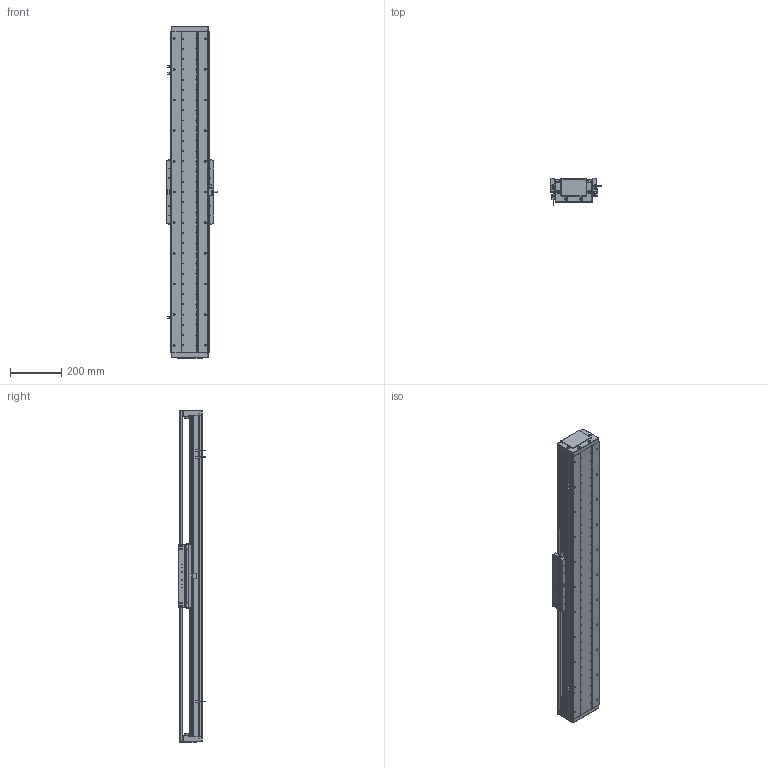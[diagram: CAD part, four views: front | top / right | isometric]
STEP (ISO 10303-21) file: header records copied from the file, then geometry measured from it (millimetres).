
FILE_DESCRIPTION (( 'STEP AP203' ), '1' );
FILE_NAME ('DA-C145-C3-T960-C010-0.2 眻盄萇儂.STEP', '2025-08-14T01:20:02', ( '' ), ( '' ), 'SwSTEP 2.0', 'SolidWorks 2019', '' );
FILE_SCHEMA (( 'CONFIG_CONTROL_DESIGN' ));
Length unit declared in the file: millimetre
Products named in the file (29): 复件 DA95-HK-GT-00 滑块钢轨^CU145-W-00 一体化滑动台板; 复件 DA145-C3-YB-A-00 压板A^CU145-W 滚珠滑台; 葩璃 鞠褒情蹟譫 M3^DA-C145-C3-T-C010-0.2; 葩璃 DA145-C3-DP-B-00 菜えB^CU145-W 幗紩賑怢; CU145-W 幗紩賑怢; TAY01-M8; 复件 DA145-C3-YB-B-00 压板B^CU145-W 滚珠滑台; 复件 纯铜油杯 6x6mm^CU145-W 滚珠滑台; 葩璃 CKMA01-W060-TRL^DA-C145-C3-T-C010-0.2; 复件 DA95-MFP-01 密封片^CU145-W 滚珠滑台; 葩璃 DA145-T-003-00 裔啣^DA-C145-C3-T-C010-0.2; 葩璃 DA145-C3-DP-A-00 菜えA^CU145-W 幗紩賑怢; 葩璃 CKM03-W060-C1C2-TP-0.2^DA-C145-C3-T-C010-0.2; IU-CU145-L-00 菁釱(L1260); 葩璃 DMA-010-0.2 黍杅芛^DA-C145-C3-T-C010-0.2; 葩璃 PM-T45^DA-C145-C3-T-C010-0.2; 复件 DA95-DB-00  挡板^CU145-W 滚珠滑台; 复件 DA145-GYP-00 光电感应片^DA-C145-C3-T-C010-0.2; 葩璃 DA95-HXJ-00 遣喳砎蝶^DA-C145-C3-T-C010-0.2; DA-C145-C3-T960-C010-0.2 眻盄萇儂; 66245-CU145-HT-W-00 賑雄怢啣(3D芞祧)(00); CU145-W-00 珨极趙賑雄怢啣; IU-CU145-L 菁釱絳寢; 复件 内六角平端紧定螺钉 GB.T77-2000 M5×10^CU145-W 滚珠滑台; 葩璃 DA95-GT-T-00^IU-CU145-L 菁釱絳寢; 复件 DA145-C3-DK-00 挡块^CU145-W 滚珠滑台; 复件 半圆头内六角螺钉 M3×6^CU145-W 滚珠滑台; 葩璃 DA145-DG-H-N-00 傷裔^DA-C145-C3-T-C010-0.2; 葩璃 XD-U-02L 棠掑喜^DA-C145-C3-T-C010-0.2
Assembly tree (98 placements, depth 4):
  DA-C145-C3-T960-C010-0.2 眻盄萇儂
    IU-CU145-L 菁釱絳寢
      IU-CU145-L-00 菁釱(L1260)
      葩璃 DA95-GT-T-00^IU-CU145-L 菁釱絳寢  x4
    CU145-W 幗紩賑怢
      CU145-W-00 珨极趙賑雄怢啣
        66245-CU145-HT-W-00 賑雄怢啣(3D芞祧)(00)
        复件 DA95-HK-GT-00 滑块钢轨^CU145-W-00 一体化滑动台板  x8
      复件 DA95-MFP-01 密封片^CU145-W 滚珠滑台  x8
      复件 DA95-DB-00  挡板^CU145-W 滚珠滑台  x8
      复件 内六角平端紧定螺钉 GB.T77-2000 M5×10^CU145-W 滚珠滑台  x4
      复件 纯铜油杯 6x6mm^CU145-W 滚珠滑台  x4
      复件 半圆头内六角螺钉 M3×6^CU145-W 滚珠滑台  x16
      复件 DA145-C3-DK-00 挡块^CU145-W 滚珠滑台  x4
      葩璃 DA145-C3-DP-B-00 菜えB^CU145-W 幗紩賑怢  x2
      复件 DA145-C3-YB-B-00 压板B^CU145-W 滚珠滑台  x2
      葩璃 DA145-C3-DP-A-00 菜えA^CU145-W 幗紩賑怢  x3
      复件 DA145-C3-YB-A-00 压板A^CU145-W 滚珠滑台  x3
      TAY01-M8  x4
    葩璃 CKMA01-W060-TRL^DA-C145-C3-T-C010-0.2
    葩璃 PM-T45^DA-C145-C3-T-C010-0.2  x3
    葩璃 XD-U-02L 棠掑喜^DA-C145-C3-T-C010-0.2
    葩璃 DA145-DG-H-N-00 傷裔^DA-C145-C3-T-C010-0.2  x2
    葩璃 DA145-T-003-00 裔啣^DA-C145-C3-T-C010-0.2
    葩璃 DA95-HXJ-00 遣喳砎蝶^DA-C145-C3-T-C010-0.2  x4
    复件 DA145-GYP-00 光电感应片^DA-C145-C3-T-C010-0.2
    葩璃 DMA-010-0.2 黍杅芛^DA-C145-C3-T-C010-0.2
    葩璃 CKM03-W060-C1C2-TP-0.2^DA-C145-C3-T-C010-0.2
    葩璃 鞠褒情蹟譫 M3^DA-C145-C3-T-C010-0.2  x8
Bounding box: 203.5 x 108.45 x 1300 mm (x, y, z)
Volume: 8077041.4 mm3; surface area: 2408952 mm2
Topology: 95 solids, 127 shells, 4051 faces, 10929 edges, 6764 vertices
Faces by surface type: cylinder 1756, plane 1579, cone 626, torus 86, sphere 4
Entity records: 96751 total; most frequent: CARTESIAN_POINT 25302, DIRECTION 13919, ORIENTED_EDGE 13856, EDGE_CURVE 6928, AXIS2_PLACEMENT_3D 5182, VERTEX_POINT 4453, VECTOR 3555, LINE 3555
